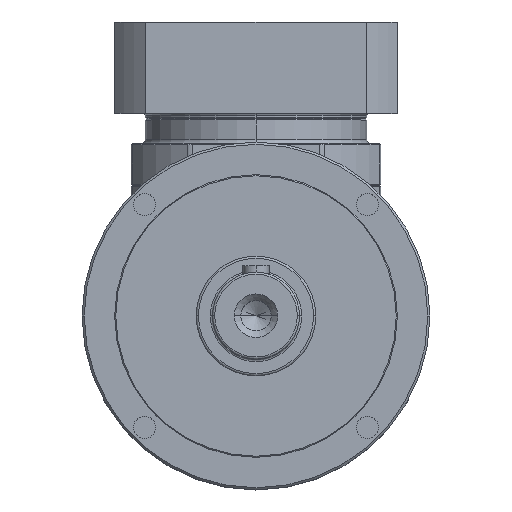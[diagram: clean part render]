
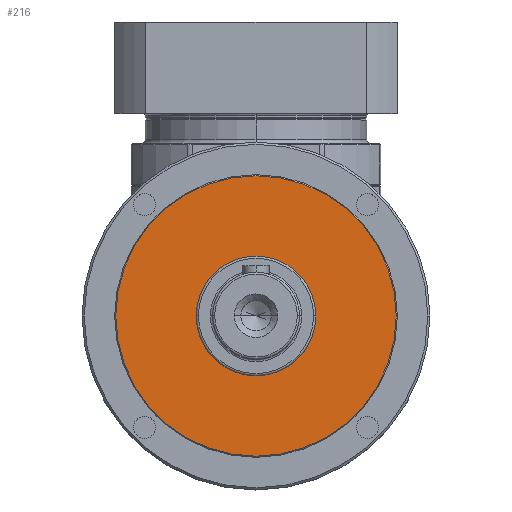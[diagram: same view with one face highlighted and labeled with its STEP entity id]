
A CAD part, top view. The second image highlights one B-rep face of the part: STEP entity #216.
In plain terms, the highlighted planar face has unit normal (0, 0, 1).
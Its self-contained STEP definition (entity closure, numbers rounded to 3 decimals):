
#216 = ADVANCED_FACE ( 'NONE', ( #2038, #7546 ), #8366, .T. ) ;
#421 = CARTESIAN_POINT ( 'NONE',  ( 0., 0., 40.5 ) ) ;
#502 = VERTEX_POINT ( 'NONE', #8111 ) ;
#573 = CIRCLE ( 'NONE', #6665, 27.5 ) ;
#638 = CARTESIAN_POINT ( 'NONE',  ( 0., 0., 40.5 ) ) ;
#678 = CARTESIAN_POINT ( 'NONE',  ( 27.5, 0., 40.5 ) ) ;
#733 = AXIS2_PLACEMENT_3D ( 'NONE', #6466, #877, #4110 ) ;
#788 = EDGE_CURVE ( 'NONE', #7879, #502, #6198, .T. ) ;
#877 = DIRECTION ( 'NONE',  ( 0., 0., 1. ) ) ;
#1069 = AXIS2_PLACEMENT_3D ( 'NONE', #5000, #5835, #1070 ) ;
#1070 = DIRECTION ( 'NONE',  ( 1., 0., 0. ) ) ;
#1322 = VERTEX_POINT ( 'NONE', #4128 ) ;
#2038 = FACE_BOUND ( 'NONE', #8344, .T. ) ;
#2200 = DIRECTION ( 'NONE',  ( 0., 0., 1. ) ) ;
#2807 = AXIS2_PLACEMENT_3D ( 'NONE', #421, #3645, #3748 ) ;
#3645 = DIRECTION ( 'NONE',  ( 0., 0., 1. ) ) ;
#3748 = DIRECTION ( 'NONE',  ( 1., 0., 0. ) ) ;
#3793 = EDGE_CURVE ( 'NONE', #6961, #1322, #4116, .T. ) ;
#4110 = DIRECTION ( 'NONE',  ( 1., 0., 0. ) ) ;
#4116 = CIRCLE ( 'NONE', #8689, 64.5 ) ;
#4128 = CARTESIAN_POINT ( 'NONE',  ( 64.5, 0., 40.5 ) ) ;
#4519 = CARTESIAN_POINT ( 'NONE',  ( 0., 0., 40.5 ) ) ;
#5000 = CARTESIAN_POINT ( 'NONE',  ( 0., 0., 40.5 ) ) ;
#5402 = DIRECTION ( 'NONE',  ( 0., 0., 1. ) ) ;
#5789 = ORIENTED_EDGE ( 'NONE', *, *, #7851, .F. ) ;
#5835 = DIRECTION ( 'NONE',  ( 0., 0., 1. ) ) ;
#5898 = ORIENTED_EDGE ( 'NONE', *, *, #3793, .T. ) ;
#6122 = DIRECTION ( 'NONE',  ( 1., 0., 0. ) ) ;
#6198 = CIRCLE ( 'NONE', #1069, 27.5 ) ;
#6432 = ORIENTED_EDGE ( 'NONE', *, *, #788, .F. ) ;
#6466 = CARTESIAN_POINT ( 'NONE',  ( 0., 0., 40.5 ) ) ;
#6665 = AXIS2_PLACEMENT_3D ( 'NONE', #4519, #5402, #6122 ) ;
#6961 = VERTEX_POINT ( 'NONE', #7181 ) ;
#6979 = DIRECTION ( 'NONE',  ( 1., 0., 0. ) ) ;
#7181 = CARTESIAN_POINT ( 'NONE',  ( -64.5, 0., 40.5 ) ) ;
#7546 = FACE_OUTER_BOUND ( 'NONE', #8488, .T. ) ;
#7851 = EDGE_CURVE ( 'NONE', #502, #7879, #573, .T. ) ;
#7879 = VERTEX_POINT ( 'NONE', #678 ) ;
#7992 = EDGE_CURVE ( 'NONE', #1322, #6961, #9615, .T. ) ;
#8111 = CARTESIAN_POINT ( 'NONE',  ( -27.5, 0., 40.5 ) ) ;
#8344 = EDGE_LOOP ( 'NONE', ( #5789, #6432 ) ) ;
#8366 = PLANE ( 'NONE',  #2807 ) ;
#8488 = EDGE_LOOP ( 'NONE', ( #5898, #8897 ) ) ;
#8689 = AXIS2_PLACEMENT_3D ( 'NONE', #638, #2200, #6979 ) ;
#8897 = ORIENTED_EDGE ( 'NONE', *, *, #7992, .T. ) ;
#9615 = CIRCLE ( 'NONE', #733, 64.5 ) ;
